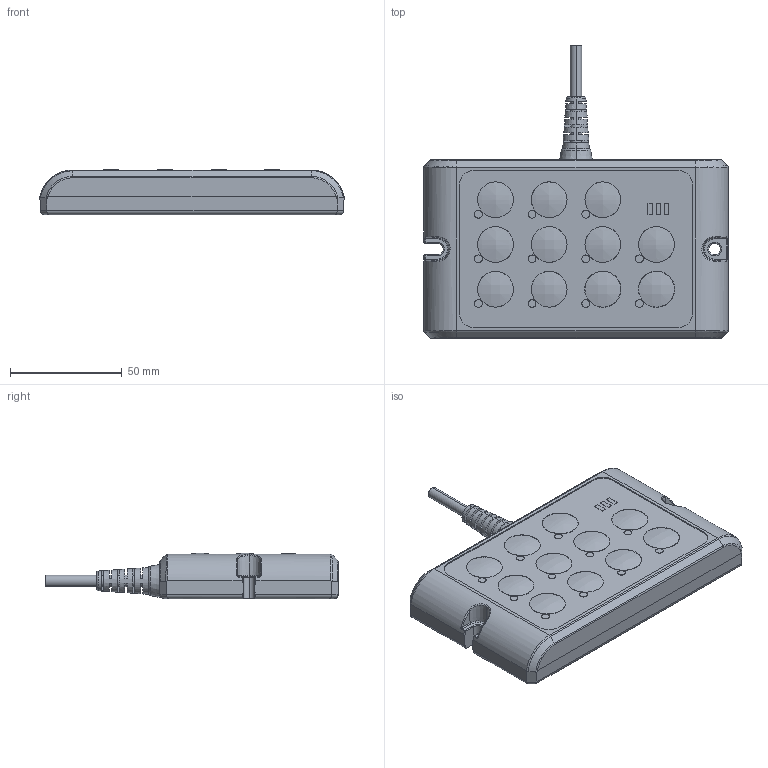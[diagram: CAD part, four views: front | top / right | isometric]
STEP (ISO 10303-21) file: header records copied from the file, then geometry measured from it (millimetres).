
FILE_DESCRIPTION (( 'STEP AP203' ), '1' );
FILE_NAME ('TNP3.STEP', '2014-01-16T03:50:39', ( 'stanley' ), ( '' ), 'SwSTEP 2.0', 'SolidWorks 2010', '' );
FILE_SCHEMA (( 'CONFIG_CONTROL_DESIGN' ));
Length unit declared in the file: millimetre
Products named in the file (1): TNP3
Bounding box: 136 x 131 x 20.4 mm (x, y, z)
Volume: 206011.4 mm3; surface area: 31239.8 mm2
Topology: 1 solids, 1 shells, 506 faces, 1225 edges, 746 vertices
Faces by surface type: cylinder 169, plane 154, bspline 109, sphere 34, torus 33, cone 7
Entity records: 35162 total; most frequent: CARTESIAN_POINT 24133, ORIENTED_EDGE 2414, DIRECTION 2068, EDGE_CURVE 1207, AXIS2_PLACEMENT_3D 816, VERTEX_POINT 746, EDGE_LOOP 551, ADVANCED_FACE 506
